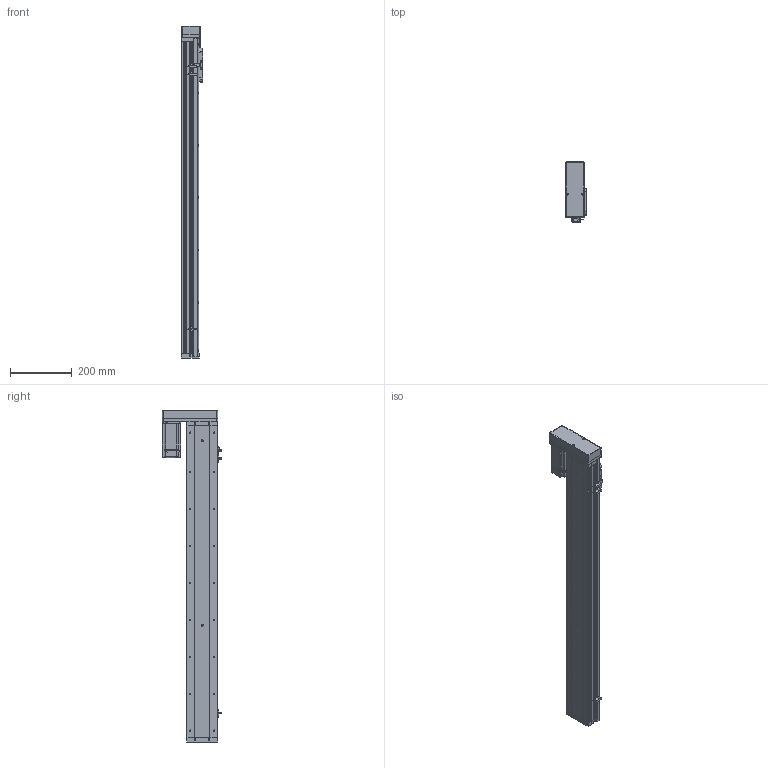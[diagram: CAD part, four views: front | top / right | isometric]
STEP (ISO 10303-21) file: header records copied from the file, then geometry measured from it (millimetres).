
FILE_DESCRIPTION (( 'STEP AP214' ), '1' );
FILE_NAME ('KSD100S-S850-ML-CR.STEP', '2019-09-02T08:25:13', ( '微软用户' ), ( '微软中国' ), 'SwSTEP 2.0', 'SolidWorks 2014', '' );
FILE_SCHEMA (( 'AUTOMOTIVE_DESIGN' ));
Length unit declared in the file: millimetre
Products named in the file (14): MHMD042G1CA_2_03; 悵誘欶酘衵殏; 100宽马达安装板连板左右折丝杆; U倰嫖萇EEㄜSX672; 感应片100宽全封闭; 100宽马达安装板全封闭; 100宽端板全封闭; 100宽滚珠螺姆安装板1防护罩; 100宽滚珠螺姆安装板1; 100遵裔啣揤啣; 100遵裔啣850俴最; 100遵耜啣850俴最佪裝; 100宽底板全封闭850行程丝杆; KSD100S-S850-ML-CR
Assembly tree (17 placements, depth 2):
  KSD100S-S850-ML-CR
    100宽底板全封闭850行程丝杆
    100遵耜啣850俴最佪裝  x2
    100遵裔啣850俴最
    100遵裔啣揤啣  x2
    100宽滚珠螺姆安装板1
    100宽滚珠螺姆安装板1防护罩
    100宽端板全封闭
    100宽马达安装板全封闭
    感应片100宽全封闭
    U倰嫖萇EEㄜSX672  x3
    100宽马达安装板连板左右折丝杆
    悵誘欶酘衵殏
    MHMD042G1CA_2_03
Bounding box: 70 x 193.7 x 1078.5 mm (x, y, z)
Volume: 2162328.5 mm3; surface area: 970796.8 mm2
Topology: 16 solids, 17 shells, 1745 faces, 4868 edges, 3088 vertices
Faces by surface type: cylinder 763, plane 703, cone 261, bspline 18
Entity records: 58434 total; most frequent: CARTESIAN_POINT 9230, DIRECTION 8315, ORIENTED_EDGE 7668, EDGE_CURVE 3906, AXIS2_PLACEMENT_3D 2993, VERTEX_POINT 2586, VECTOR 2329, LINE 2329
